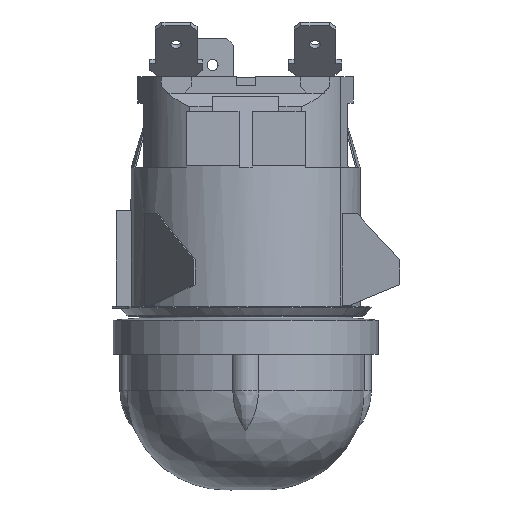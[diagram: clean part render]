
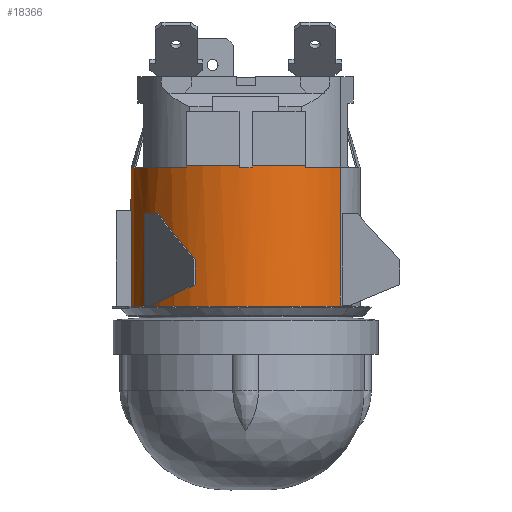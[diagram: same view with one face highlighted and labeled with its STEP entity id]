
A CAD part, front view. The second image highlights one B-rep face of the part: STEP entity #18366.
In plain terms, the highlighted cylindrical face has radius 17.35 mm (diameter 34.7 mm), a partial arc.
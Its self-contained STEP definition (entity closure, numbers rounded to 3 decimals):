
#16151=CARTESIAN_POINT(' ',(-14.833,9.,0.));
#16152=VERTEX_POINT(' ',#16151);
#16296=CARTESIAN_POINT(' ',(-14.833,9.,-0.25));
#16297=VERTEX_POINT(' ',#16296);
#16311=CARTESIAN_POINT(' ',(-14.833,9.,-0.25));
#16316=DIRECTION(' ',(0.,0.,1.));
#16321=VECTOR(' ',#16316,1.);
#16326=LINE('',#16311,#16321);
#16331=EDGE_CURVE(' ',#16297,#16152,#16326,.T.);
#16616=CARTESIAN_POINT(' ',(-17.321,1.,0.));
#16617=VERTEX_POINT(' ',#16616);
#16631=CARTESIAN_POINT(' ',(-17.321,1.,-0.25));
#16636=DIRECTION(' ',(0.,0.,1.));
#16641=VECTOR(' ',#16636,1.);
#16646=LINE('',#16631,#16641);
#16651=CARTESIAN_POINT(' ',(-17.321,1.,-0.25));
#16652=VERTEX_POINT(' ',#16651);
#16656=EDGE_CURVE(' ',#16652,#16617,#16646,.T.);
#17071=CARTESIAN_POINT(' ',(0.,0.,0.));
#17076=DIRECTION(' ',(0.,0.,1.));
#17081=DIRECTION(' ',(-0.568,0.823,0.));
#17086=AXIS2_PLACEMENT_3D(' ',#17071,#17076,#17081);
#17091=CIRCLE('',#17086,17.35);
#17096=CARTESIAN_POINT(' ',(-9.854,14.28,0.));
#17097=VERTEX_POINT(' ',#17096);
#17101=EDGE_CURVE(' ',#17097,#16152,#17091,.T.);
#17396=CARTESIAN_POINT(' ',(0.,0.,-0.25));
#17401=DIRECTION(' ',(0.,0.,-1.));
#17406=DIRECTION(' ',(-0.998,0.058,0.));
#17411=AXIS2_PLACEMENT_3D(' ',#17396,#17401,#17406);
#17416=CIRCLE('',#17411,17.35);
#17421=EDGE_CURVE(' ',#16652,#16297,#17416,.T.);
#17506=CARTESIAN_POINT(' ',(0.,0.,21.614));
#17511=DIRECTION(' ',(0.,0.,-1.));
#17516=DIRECTION(' ',(0.568,-0.823,0.));
#17521=AXIS2_PLACEMENT_3D(' ',#17506,#17511,#17516);
#17526=CYLINDRICAL_SURFACE(' ',#17521,17.35);
#17531=CARTESIAN_POINT(' ',(9.854,-14.28,0.));
#17536=DIRECTION(' ',(0.,0.,1.));
#17541=VECTOR(' ',#17536,1.);
#17546=LINE('',#17531,#17541);
#17551=CARTESIAN_POINT(' ',(9.854,-14.28,0.));
#17552=VERTEX_POINT(' ',#17551);
#17556=CARTESIAN_POINT(' ',(9.854,-14.28,22.));
#17557=VERTEX_POINT(' ',#17556);
#17561=EDGE_CURVE(' ',#17552,#17557,#17546,.T.);
#17566=ORIENTED_EDGE(' ',*,*,#17561,.T.);
#17571=CARTESIAN_POINT(' ',(0.,0.,22.));
#17576=DIRECTION(' ',(0.,-0.,1.));
#17581=DIRECTION(' ',(-1.,0.,0.));
#17586=AXIS2_PLACEMENT_3D(' ',#17571,#17576,#17581);
#17591=CIRCLE('',#17586,17.35);
#17596=CARTESIAN_POINT(' ',(-17.35,0.,22.));
#17597=VERTEX_POINT(' ',#17596);
#17601=EDGE_CURVE(' ',#17597,#17557,#17591,.T.);
#17606=ORIENTED_EDGE(' ',*,*,#17601,.F.);
#17611=CARTESIAN_POINT(' ',(0.,0.,22.));
#17616=DIRECTION(' ',(-0.,0.,1.));
#17621=DIRECTION(' ',(-0.568,0.823,0.));
#17626=AXIS2_PLACEMENT_3D(' ',#17611,#17616,#17621);
#17631=CIRCLE('',#17626,17.35);
#17636=CARTESIAN_POINT(' ',(-9.854,14.28,22.));
#17637=VERTEX_POINT(' ',#17636);
#17641=EDGE_CURVE(' ',#17637,#17597,#17631,.T.);
#17646=ORIENTED_EDGE(' ',*,*,#17641,.F.);
#17651=CARTESIAN_POINT(' ',(-9.854,14.28,0.));
#17656=DIRECTION(' ',(0.,0.,1.));
#17661=VECTOR(' ',#17656,1.);
#17666=LINE('',#17651,#17661);
#17671=EDGE_CURVE(' ',#17097,#17637,#17666,.T.);
#17676=ORIENTED_EDGE(' ',*,*,#17671,.F.);
#17681=ORIENTED_EDGE(' ',*,*,#17101,.T.);
#17686=ORIENTED_EDGE(' ',*,*,#16331,.F.);
#17691=ORIENTED_EDGE(' ',*,*,#17421,.F.);
#17696=ORIENTED_EDGE(' ',*,*,#16656,.T.);
#17701=CARTESIAN_POINT(' ',(0.,0.,0.));
#17706=DIRECTION(' ',(-0.,0.,1.));
#17711=DIRECTION(' ',(-0.998,0.058,0.));
#17716=AXIS2_PLACEMENT_3D(' ',#17701,#17706,#17711);
#17721=CIRCLE('',#17716,17.35);
#17726=CARTESIAN_POINT(' ',(-17.321,-1.,0.));
#17727=VERTEX_POINT(' ',#17726);
#17731=EDGE_CURVE(' ',#16617,#17727,#17721,.T.);
#17736=ORIENTED_EDGE(' ',*,*,#17731,.T.);
#17741=CARTESIAN_POINT(' ',(-17.321,-1.,-0.25));
#17746=DIRECTION(' ',(0.,0.,1.));
#17751=VECTOR(' ',#17746,1.);
#17756=LINE('',#17741,#17751);
#17761=CARTESIAN_POINT(' ',(-17.321,-1.,-0.25));
#17762=VERTEX_POINT(' ',#17761);
#17766=EDGE_CURVE(' ',#17762,#17727,#17756,.T.);
#17771=ORIENTED_EDGE(' ',*,*,#17766,.F.);
#17776=CARTESIAN_POINT(' ',(0.,0.,-0.25));
#17781=DIRECTION(' ',(0.,0.,-1.));
#17786=DIRECTION(' ',(-0.855,-0.519,0.));
#17791=AXIS2_PLACEMENT_3D(' ',#17776,#17781,#17786);
#17796=CIRCLE('',#17791,17.35);
#17801=CARTESIAN_POINT(' ',(-14.833,-9.,-0.25));
#17802=VERTEX_POINT(' ',#17801);
#17806=EDGE_CURVE(' ',#17802,#17762,#17796,.T.);
#17811=ORIENTED_EDGE(' ',*,*,#17806,.F.);
#17816=CARTESIAN_POINT(' ',(-14.833,-9.,-0.25));
#17821=DIRECTION(' ',(0.,0.,1.));
#17826=VECTOR(' ',#17821,1.);
#17831=LINE('',#17816,#17826);
#17836=CARTESIAN_POINT(' ',(-14.833,-9.,0.));
#17837=VERTEX_POINT(' ',#17836);
#17841=EDGE_CURVE(' ',#17802,#17837,#17831,.T.);
#17846=ORIENTED_EDGE(' ',*,*,#17841,.T.);
#17851=CARTESIAN_POINT(' ',(0.,0.,0.));
#17856=DIRECTION(' ',(0.,0.,1.));
#17861=DIRECTION(' ',(-0.855,-0.519,0.));
#17866=AXIS2_PLACEMENT_3D(' ',#17851,#17856,#17861);
#17871=CIRCLE('',#17866,17.35);
#17876=CARTESIAN_POINT(' ',(-4.,-16.883,0.));
#17877=VERTEX_POINT(' ',#17876);
#17881=EDGE_CURVE(' ',#17837,#17877,#17871,.T.);
#17886=ORIENTED_EDGE(' ',*,*,#17881,.T.);
#17891=CARTESIAN_POINT(' ',(0.,0.,0.));
#17896=DIRECTION(' ',(0.,0.,1.));
#17901=DIRECTION(' ',(-0.231,-0.973,0.));
#17906=AXIS2_PLACEMENT_3D(' ',#17891,#17896,#17901);
#17911=CIRCLE('',#17906,17.35);
#17916=CARTESIAN_POINT(' ',(4.,-16.883,0.));
#17917=VERTEX_POINT(' ',#17916);
#17921=EDGE_CURVE(' ',#17877,#17917,#17911,.T.);
#17926=ORIENTED_EDGE(' ',*,*,#17921,.T.);
#17931=CARTESIAN_POINT(' ',(0.,0.001,0.));
#17936=DIRECTION(' ',(0.,0.,1.));
#17941=DIRECTION(' ',(0.231,-0.973,0.));
#17946=AXIS2_PLACEMENT_3D(' ',#17931,#17936,#17941);
#17951=CIRCLE('',#17946,17.351);
#17956=EDGE_CURVE(' ',#17917,#17552,#17951,.T.);
#17961=ORIENTED_EDGE(' ',*,*,#17956,.T.);
#17966=EDGE_LOOP(' ',(#17566,#17606,#17646,#17676,#17681,#17686,#17691,#17696,#17736,#17771,#17811,#17846,#17886,#17926,#17961));
#17971=FACE_OUTER_BOUND(' ',#17966,.T.);
#17976=CARTESIAN_POINT(' ',(0.,0.,20.999));
#17981=DIRECTION(' ',(0.,0.,-1.));
#17986=DIRECTION(' ',(0.092,-0.996,0.));
#17991=AXIS2_PLACEMENT_3D(' ',#17976,#17981,#17986);
#17996=CIRCLE('',#17991,17.35);
#18001=CARTESIAN_POINT(' ',(1.6,-17.276,20.999));
#18002=VERTEX_POINT(' ',#18001);
#18006=CARTESIAN_POINT(' ',(-1.6,-17.276,20.999));
#18007=VERTEX_POINT(' ',#18006);
#18011=EDGE_CURVE(' ',#18002,#18007,#17996,.T.);
#18016=ORIENTED_EDGE(' ',*,*,#18011,.F.);
#18021=CARTESIAN_POINT(' ',(1.6,-17.276,20.999));
#18026=DIRECTION(' ',(0.,0.,-1.));
#18031=VECTOR(' ',#18026,1.);
#18036=LINE('',#18021,#18031);
#18041=CARTESIAN_POINT(' ',(1.6,-17.276,6.5));
#18042=VERTEX_POINT(' ',#18041);
#18046=EDGE_CURVE(' ',#18002,#18042,#18036,.T.);
#18051=ORIENTED_EDGE(' ',*,*,#18046,.T.);
#18056=CARTESIAN_POINT(' ',(0.,0.,6.5));
#18061=DIRECTION(' ',(0.,0.,-1.));
#18066=DIRECTION(' ',(0.092,-0.996,0.));
#18071=AXIS2_PLACEMENT_3D(' ',#18056,#18061,#18066);
#18076=CIRCLE('',#18071,17.35);
#18081=CARTESIAN_POINT(' ',(-1.6,-17.276,6.5));
#18082=VERTEX_POINT(' ',#18081);
#18086=EDGE_CURVE(' ',#18042,#18082,#18076,.T.);
#18091=ORIENTED_EDGE(' ',*,*,#18086,.T.);
#18096=CARTESIAN_POINT(' ',(-1.6,-17.276,6.5));
#18101=DIRECTION(' ',(0.,0.,1.));
#18106=VECTOR(' ',#18101,1.);
#18111=LINE('',#18096,#18106);
#18116=EDGE_CURVE(' ',#18082,#18007,#18111,.T.);
#18121=ORIENTED_EDGE(' ',*,*,#18116,.T.);
#18126=EDGE_LOOP(' ',(#18016,#18051,#18091,#18121));
#18131=FACE_BOUND(' ',#18126,.T.);
#18136=CARTESIAN_POINT(' ',(0.,0.,7.));
#18141=DIRECTION(' ',(0.,0.,1.));
#18146=DIRECTION(' ',(-0.608,-0.794,0.));
#18151=AXIS2_PLACEMENT_3D(' ',#18136,#18141,#18146);
#18156=CIRCLE('',#18151,17.35);
#18161=CARTESIAN_POINT(' ',(-10.551,-13.773,7.));
#18162=VERTEX_POINT(' ',#18161);
#18166=CARTESIAN_POINT(' ',(-8.069,-15.36,7.));
#18167=VERTEX_POINT(' ',#18166);
#18171=EDGE_CURVE(' ',#18162,#18167,#18156,.T.);
#18176=ORIENTED_EDGE(' ',*,*,#18171,.F.);
#18181=CARTESIAN_POINT(' ',(-10.551,-13.773,7.));
#18186=DIRECTION(' ',(0.,0.,1.));
#18191=VECTOR(' ',#18186,1.);
#18196=LINE('',#18181,#18191);
#18201=CARTESIAN_POINT(' ',(-10.551,-13.773,20.622));
#18202=VERTEX_POINT(' ',#18201);
#18206=EDGE_CURVE(' ',#18162,#18202,#18196,.T.);
#18211=ORIENTED_EDGE(' ',*,*,#18206,.T.);
#18216=CARTESIAN_POINT(' ',(-10.551,-13.773,20.8));
#18221=DIRECTION(' ',(0.,0.,-1.));
#18226=VECTOR(' ',#18221,1.);
#18231=LINE('',#18216,#18226);
#18236=CARTESIAN_POINT(' ',(-10.551,-13.773,20.8));
#18237=VERTEX_POINT(' ',#18236);
#18241=EDGE_CURVE(' ',#18237,#18202,#18231,.T.);
#18246=ORIENTED_EDGE(' ',*,*,#18241,.F.);
#18251=CARTESIAN_POINT(' ',(-10.551,-13.773,20.8));
#18256=DIRECTION(' ',(0.808,-0.589,0.));
#18261=VECTOR(' ',#18256,1.);
#18266=LINE('',#18251,#18261);
#18271=CARTESIAN_POINT(' ',(-9.894,-14.252,20.8));
#18272=VERTEX_POINT(' ',#18271);
#18276=EDGE_CURVE(' ',#18237,#18272,#18266,.T.);
#18281=ORIENTED_EDGE(' ',*,*,#18276,.T.);
#18286=CARTESIAN_POINT(' ',(0.,0.,20.8));
#18291=DIRECTION(' ',(-0.,-0.,1.));
#18296=DIRECTION(' ',(-0.57,-0.821,0.));
#18301=AXIS2_PLACEMENT_3D(' ',#18286,#18291,#18296);
#18306=CIRCLE('',#18301,17.35);
#18311=CARTESIAN_POINT(' ',(-8.069,-15.36,20.8));
#18312=VERTEX_POINT(' ',#18311);
#18316=EDGE_CURVE(' ',#18272,#18312,#18306,.T.);
#18321=ORIENTED_EDGE(' ',*,*,#18316,.T.);
#18326=CARTESIAN_POINT(' ',(-8.069,-15.36,7.));
#18331=DIRECTION(' ',(0.,0.,1.));
#18336=VECTOR(' ',#18331,1.);
#18341=LINE('',#18326,#18336);
#18346=EDGE_CURVE(' ',#18167,#18312,#18341,.T.);
#18351=ORIENTED_EDGE(' ',*,*,#18346,.F.);
#18356=EDGE_LOOP(' ',(#18176,#18211,#18246,#18281,#18321,#18351));
#18361=FACE_BOUND(' ',#18356,.T.);
#18366=ADVANCED_FACE('',(#17971,#18131,#18361),#17526,.T.);
